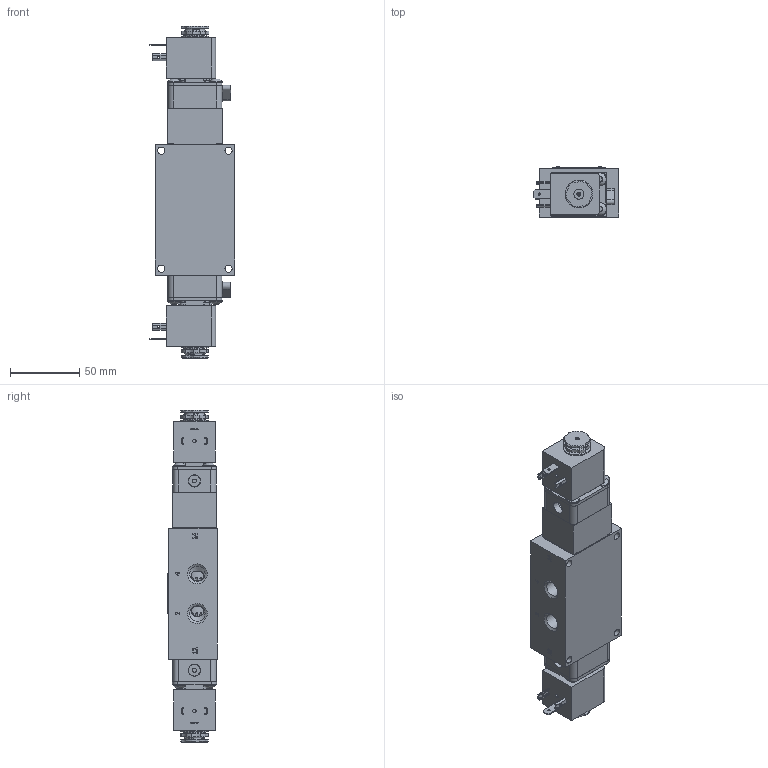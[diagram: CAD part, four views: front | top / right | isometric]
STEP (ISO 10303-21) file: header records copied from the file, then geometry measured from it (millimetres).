
FILE_DESCRIPTION(/* description */ (''),/* implementation_level */ '2;1');
FILE_NAME(/* name */ 'ESS2HOCQZ.stp',/* time_stamp */ '2026-10-01T10:11:41-04:00',/* author */ ('rmckenna'),/* organization */ (''),/* preprocessor_version */ 'ST-DEVELOPER v20.2',/* originating_system */ 'Autodesk Inventor 2027',/* authorisation */ '');
FILE_SCHEMA (('AUTOMOTIVE_DESIGN { 1 0 10303 214 3 1 1 }'));
Products named in the file (1): Part59
Bounding box: 61.36 x 36.27 x 238.95 mm (x, y, z)
Volume: 288644 mm3; surface area: 95807.1 mm2
Topology: 1 solids, 36 shells, 2251 faces, 5631 edges, 3615 vertices
Faces by surface type: plane 1022, cylinder 670, cone 276, torus 145, bspline 128, sphere 10
Full cylindrical faces by diameter (mm): 1.168 x20, 1.3 x2, 1.397 x2, 1.5 x3, 1.651 x4, 2.032 x16, 2.07 x2, 2.261 x2, 2.35 x8, 2.5 x4, 2.778 x2, 2.8 x2, 3 x8, 3.048 x3, 3.175 x1, 3.353 x1, 3.4 x2, 3.683 x12, 3.912 x3, 4.191 x4, 4.305 x1, 4.394 x1, 4.826 x8, 4.978 x1, 5.15 x8, 5.156 x16, 5.159 x4, 5.5 x2, 5.944 x1, 6.65 x2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
Entity records: 75986 total; most frequent: CARTESIAN_POINT 19656, ORIENTED_EDGE 11218, DIRECTION 11153, EDGE_CURVE 5609, AXIS2_PLACEMENT_3D 4145, VERTEX_POINT 3613, LINE 2863, VECTOR 2863
